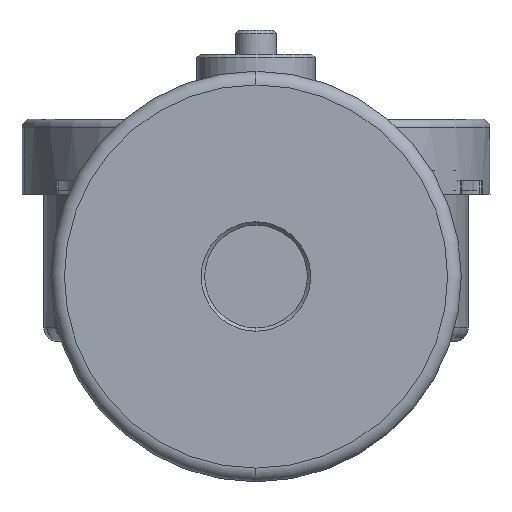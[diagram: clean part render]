
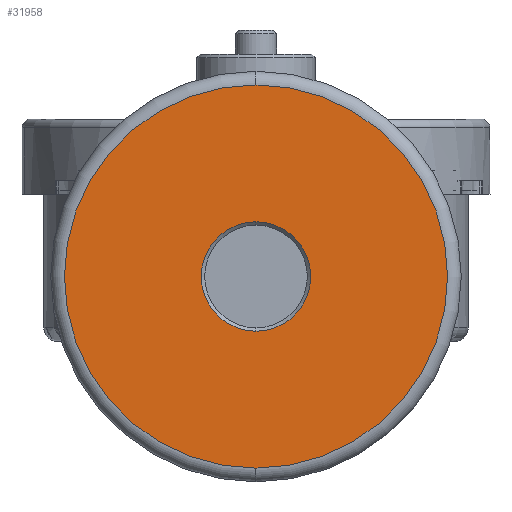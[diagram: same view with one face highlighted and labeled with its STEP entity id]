
A CAD part, front view. The second image highlights one B-rep face of the part: STEP entity #31958.
In plain terms, the highlighted planar face has unit normal (0, -1, 0).
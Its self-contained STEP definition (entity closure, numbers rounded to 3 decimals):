
#2 = DIRECTION ( 'NONE',  ( 0., 0., -1. ) ) ;
#11 = CARTESIAN_POINT ( 'NONE',  ( 26.382, -113.942, 11.829 ) ) ;
#1657 = CIRCLE ( 'NONE', #27275, 8. ) ;
#1664 = DIRECTION ( 'NONE',  ( 0., 0., -1. ) ) ;
#2489 = DIRECTION ( 'NONE',  ( 0., -1., 0. ) ) ;
#5924 = DIRECTION ( 'NONE',  ( 0., -1., 0. ) ) ;
#6259 = DIRECTION ( 'NONE',  ( 0., 0., -1. ) ) ;
#7596 = AXIS2_PLACEMENT_3D ( 'NONE', #25583, #2489, #22013 ) ;
#13352 = EDGE_LOOP ( 'NONE', ( #23321, #23477 ) ) ;
#15534 = CARTESIAN_POINT ( 'NONE',  ( 26.382, -113.942, 47.829 ) ) ;
#15701 = DIRECTION ( 'NONE',  ( 0., 1., 0. ) ) ;
#18885 = CIRCLE ( 'NONE', #7596, 28. ) ;
#18930 = VERTEX_POINT ( 'NONE', #28209 ) ;
#19036 = VERTEX_POINT ( 'NONE', #11 ) ;
#20317 = CARTESIAN_POINT ( 'NONE',  ( 26.382, -113.942, 39.829 ) ) ;
#20792 = AXIS2_PLACEMENT_3D ( 'NONE', #24340, #44000, #2 ) ;
#22013 = DIRECTION ( 'NONE',  ( 0., 0., -1. ) ) ;
#23321 = ORIENTED_EDGE ( 'NONE', *, *, #38884, .T. ) ;
#23477 = ORIENTED_EDGE ( 'NONE', *, *, #26557, .T. ) ;
#24340 = CARTESIAN_POINT ( 'NONE',  ( 26.382, -113.942, 39.829 ) ) ;
#24919 = VERTEX_POINT ( 'NONE', #15534 ) ;
#25583 = CARTESIAN_POINT ( 'NONE',  ( 26.382, -113.942, 39.829 ) ) ;
#26557 = EDGE_CURVE ( 'NONE', #51472, #19036, #48546, .T. ) ;
#27275 = AXIS2_PLACEMENT_3D ( 'NONE', #20317, #5924, #6259 ) ;
#28209 = CARTESIAN_POINT ( 'NONE',  ( 26.382, -113.942, 31.829 ) ) ;
#29439 = AXIS2_PLACEMENT_3D ( 'NONE', #39517, #15701, #34356 ) ;
#29832 = CARTESIAN_POINT ( 'NONE',  ( 26.382, -113.942, 67.829 ) ) ;
#30457 = FACE_BOUND ( 'NONE', #37272, .T. ) ;
#30718 = ORIENTED_EDGE ( 'NONE', *, *, #49307, .F. ) ;
#31958 = ADVANCED_FACE ( 'NONE', ( #38910, #30457 ), #53999, .F. ) ;
#34296 = AXIS2_PLACEMENT_3D ( 'NONE', #51772, #41785, #1664 ) ;
#34356 = DIRECTION ( 'NONE',  ( 1., 0., 0. ) ) ;
#35181 = EDGE_CURVE ( 'NONE', #24919, #18930, #1657, .T. ) ;
#37272 = EDGE_LOOP ( 'NONE', ( #30718, #42661 ) ) ;
#38884 = EDGE_CURVE ( 'NONE', #19036, #51472, #18885, .T. ) ;
#38910 = FACE_OUTER_BOUND ( 'NONE', #13352, .T. ) ;
#39517 = CARTESIAN_POINT ( 'NONE',  ( 18.382, -113.942, 39.829 ) ) ;
#41785 = DIRECTION ( 'NONE',  ( 0., -1., 0. ) ) ;
#42661 = ORIENTED_EDGE ( 'NONE', *, *, #35181, .F. ) ;
#44000 = DIRECTION ( 'NONE',  ( 0., -1., 0. ) ) ;
#48546 = CIRCLE ( 'NONE', #20792, 28. ) ;
#49307 = EDGE_CURVE ( 'NONE', #18930, #24919, #50725, .T. ) ;
#50725 = CIRCLE ( 'NONE', #34296, 8. ) ;
#51472 = VERTEX_POINT ( 'NONE', #29832 ) ;
#51772 = CARTESIAN_POINT ( 'NONE',  ( 26.382, -113.942, 39.829 ) ) ;
#53999 = PLANE ( 'NONE',  #29439 ) ;
